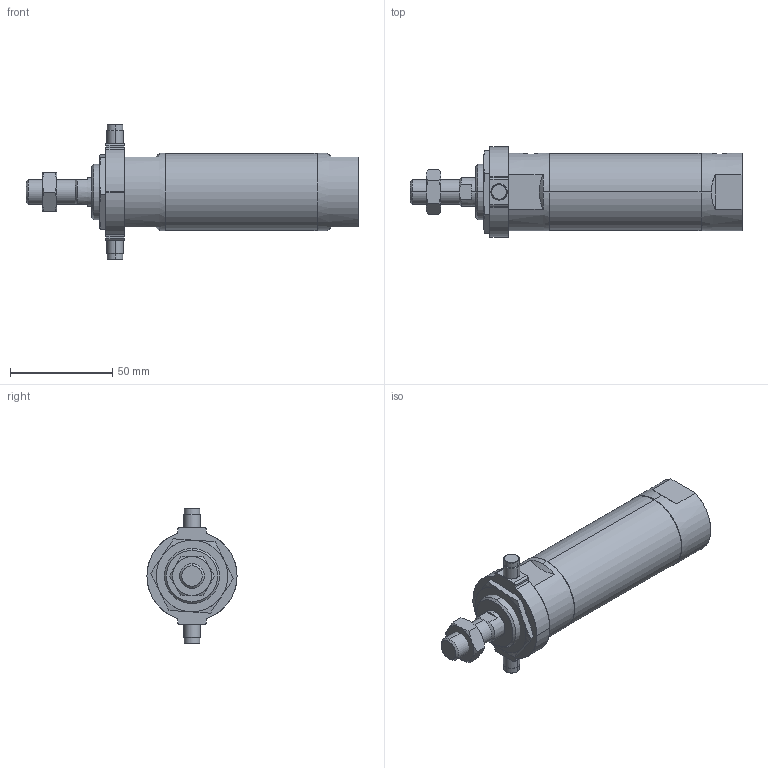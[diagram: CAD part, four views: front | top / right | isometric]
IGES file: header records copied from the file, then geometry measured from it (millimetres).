
Start section: SolidWorks IGES file using analytic representation for surfaces
Global section: file name: C:\Users\Toshiba\Desktop\JGND2-32-25-T.IGS; native system: SolidWorks 2014; preprocessor: SolidWorks 2014; author: Toshiba; date: 160804.104743; units: millimetre
Bounding box: 162 x 44 x 66 mm (x, y, z)
Surface area: 26837.7 mm2 (no closed solid volume)
Topology: 0 solids, 0 shells, 128 faces, 2076 edges, 2072 vertices
Faces by surface type: bspline 66, revolution 62
